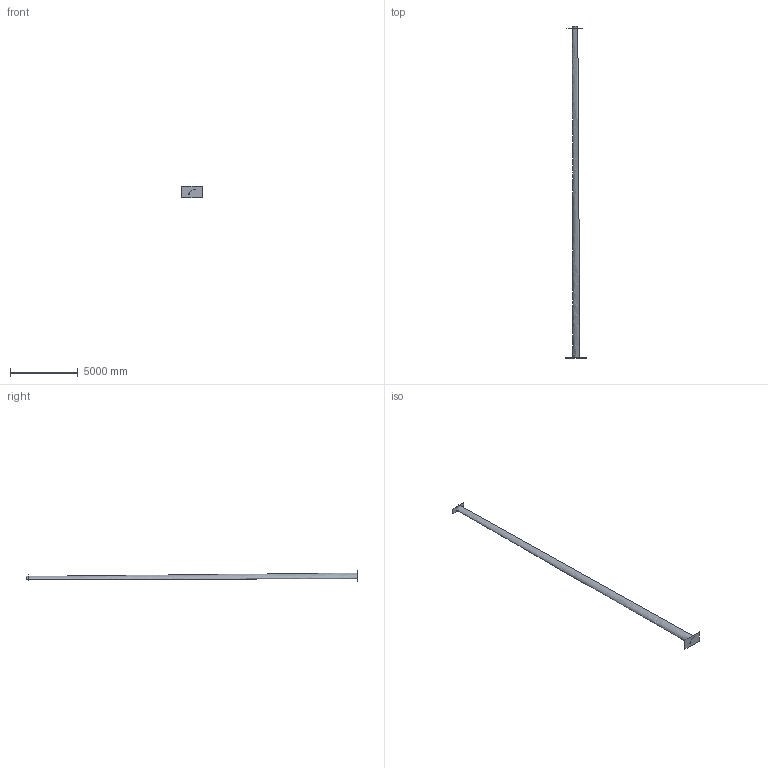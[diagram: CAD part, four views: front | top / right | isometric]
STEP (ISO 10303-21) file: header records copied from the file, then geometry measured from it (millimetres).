
FILE_DESCRIPTION((''),'2;1');
FILE_NAME('','2022-03-10T06:37:16',(''),(''),'','CADfix','');
FILE_SCHEMA(('AUTOMOTIVE_DESIGN { 1 0 10303 214 1 1 1 1 }'));
Length unit declared in the file: inch
Bounding box: 1485.9 x 24551.59 x 839.16 mm (x, y, z)
Surface area: 17177866.8 mm2 (no closed solid volume)
Topology: 0 solids, 0 shells, 3 faces, 12 edges, 12 vertices
Faces by surface type: bspline 3
Entity records: 21346 total; most frequent: CARTESIAN_POINT 21324, B_SPLINE_SURFACE_WITH_KNOTS 3, DIMENSIONAL_EXPONENTS 2, PLANE_ANGLE_MEASURE_WITH_UNIT 1, LENGTH_MEASURE_WITH_UNIT 1, UNCERTAINTY_MEASURE_WITH_UNIT 1, GEOMETRIC_SET 1, GEOMETRICALLY_BOUNDED_SURFACE_SHAPE_REPRESENTATION 1
